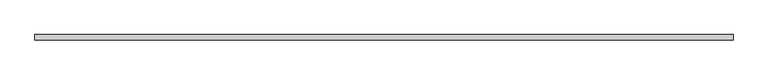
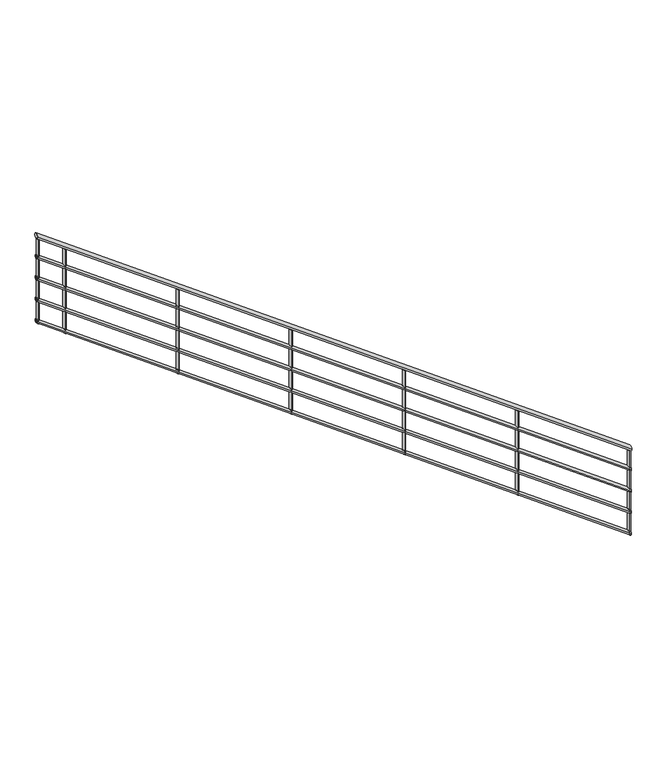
"""IFC4 building model written with IfcOpenShell, lengths in millimetres: railing geometry, 900mm 管."""

from ifc_helpers import new_model, si_unit, frame, origin, place, context, project, spatial, ellipse_curve, source, transform, mapped, element, save
from ifc_brep_helpers import plane_surface, cylinder_surface, advanced_brep


def railing_fe238c61(model_context):
    return source(origin(), model_context, "Body", "AdvancedBrep", [
        advanced_brep(
        [(8202.9445117, -3394.1637817, -2942.9117646), (8202.9445117, -3354.1637817, -2942.9117646), (2952.9445117, -3394.1637817, 875.2700536), (2952.9445117, -3354.1637817, 875.2700536)],
        [
            (0, 1, ellipse_curve(frame((8202.9445117, -3374.1637817, -2942.9117646), z_axis=(1.0, 0.0, 0.0), x_axis=(0.0, 0.0, -0.9999999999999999)), 24.7299464, 20.0)),
            (1, 0, ellipse_curve(frame((8202.9445117, -3374.1637817, -2942.9117646), z_axis=(1.0, 0.0, 0.0), x_axis=(0.0, 0.0, -0.9999999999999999)), 24.7299464, 20.0)),
            (2, 3, ellipse_curve(frame((2952.9445117, -3374.1637817, 875.2700536), z_axis=(-1.0, 0.0, 0.0), x_axis=(0.0, 0.0, -0.9999999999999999)), 24.7299464, 20.0)),
            (3, 2, ellipse_curve(frame((2952.9445117, -3374.1637817, 875.2700536), z_axis=(-1.0, 0.0, 0.0), x_axis=(0.0, 0.0, -0.9999999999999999)), 24.7299464, 20.0)),
            (0, 2),
            (3, 1),
        ],
        [
            plane_surface(frame((8202.9445117, -3374.1637817, -2918.1818182), z_axis=(1.0, 0.0, 0.0), x_axis=(0.0, -1.0, 0.0))),
            plane_surface(frame((2952.9445117, -3374.1637817, 900.0), z_axis=(-1.0, 0.0, 0.0), x_axis=(0.0, -1.0, 0.0))),
            cylinder_surface(frame((8191.1810777, -3374.1637817, -2934.3565399), z_axis=(0.8087360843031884, 0.0, -0.5881716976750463), x_axis=(0.0, 1.0, 0.0)), 20.0),
        ],
        [
            (0, [[1, 2]]),
            (1, [[3, 4]]),
            (2, [[-1, 5, -4, 6]]),
            (2, [[-2, -6, -3, -5]]),
        ],
    ),
        advanced_brep(
        [(8202.9445117, -3389.1637817, -3136.729278), (8202.9445117, -3359.1637817, -3136.729278), (2952.9445117, -3389.1637817, 681.4525402), (2952.9445117, -3359.1637817, 681.4525402)],
        [
            (0, 1, ellipse_curve(frame((8202.9445117, -3374.1637817, -3136.729278), z_axis=(1.0, 0.0, 0.0), x_axis=(0.0, 0.0, -0.9999999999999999)), 18.5474598, 15.0)),
            (1, 0, ellipse_curve(frame((8202.9445117, -3374.1637817, -3136.729278), z_axis=(1.0, 0.0, 0.0), x_axis=(0.0, 0.0, -0.9999999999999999)), 18.5474598, 15.0)),
            (2, 3, ellipse_curve(frame((2952.9445117, -3374.1637817, 681.4525402), z_axis=(-1.0, 0.0, 0.0), x_axis=(0.0, 0.0, -0.9999999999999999)), 18.5474598, 15.0)),
            (3, 2, ellipse_curve(frame((2952.9445117, -3374.1637817, 681.4525402), z_axis=(-1.0, 0.0, 0.0), x_axis=(0.0, 0.0, -0.9999999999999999)), 18.5474598, 15.0)),
            (0, 2),
            (3, 1),
        ],
        [
            plane_surface(frame((8202.9445117, -3374.1637817, -3118.1818182), z_axis=(1.0, 0.0, 0.0), x_axis=(0.0, -1.0, 0.0))),
            plane_surface(frame((2952.9445117, -3374.1637817, 700.0), z_axis=(-1.0, 0.0, 0.0), x_axis=(0.0, -1.0, 0.0))),
            cylinder_surface(frame((8194.1219362, -3374.1637817, -3130.3128594), z_axis=(0.8087360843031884, 0.0, -0.5881716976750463), x_axis=(0.0, 1.0, 0.0)), 15.0),
        ],
        [
            (0, [[1, 2]]),
            (1, [[3, 4]]),
            (2, [[-1, 5, -4, 6]]),
            (2, [[-2, -6, -3, -5]]),
        ],
    ),
        advanced_brep(
        [(8202.9445117, -3389.1637817, -3336.729278), (8202.9445117, -3359.1637817, -3336.729278), (2952.9445117, -3389.1637817, 481.4525402), (2952.9445117, -3359.1637817, 481.4525402)],
        [
            (0, 1, ellipse_curve(frame((8202.9445117, -3374.1637817, -3336.729278), z_axis=(1.0, 0.0, 0.0), x_axis=(0.0, 0.0, -0.9999999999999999)), 18.5474598, 15.0)),
            (1, 0, ellipse_curve(frame((8202.9445117, -3374.1637817, -3336.729278), z_axis=(1.0, 0.0, 0.0), x_axis=(0.0, 0.0, -0.9999999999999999)), 18.5474598, 15.0)),
            (2, 3, ellipse_curve(frame((2952.9445117, -3374.1637817, 481.4525402), z_axis=(-1.0, 0.0, 0.0), x_axis=(0.0, 0.0, -0.9999999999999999)), 18.5474598, 15.0)),
            (3, 2, ellipse_curve(frame((2952.9445117, -3374.1637817, 481.4525402), z_axis=(-1.0, 0.0, 0.0), x_axis=(0.0, 0.0, -0.9999999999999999)), 18.5474598, 15.0)),
            (0, 2),
            (3, 1),
        ],
        [
            plane_surface(frame((8202.9445117, -3374.1637817, -3318.1818182), z_axis=(1.0, 0.0, 0.0), x_axis=(0.0, -1.0, 0.0))),
            plane_surface(frame((2952.9445117, -3374.1637817, 500.0), z_axis=(-1.0, 0.0, 0.0), x_axis=(0.0, -1.0, 0.0))),
            cylinder_surface(frame((8194.1219362, -3374.1637817, -3330.3128594), z_axis=(0.8087360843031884, 0.0, -0.5881716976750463), x_axis=(0.0, 1.0, 0.0)), 15.0),
        ],
        [
            (0, [[1, 2]]),
            (1, [[3, 4]]),
            (2, [[-1, 5, -4, 6]]),
            (2, [[-2, -6, -3, -5]]),
        ],
    ),
        advanced_brep(
        [(8202.9445117, -3389.1637817, -3536.729278), (8202.9445117, -3359.1637817, -3536.729278), (2952.9445117, -3389.1637817, 281.4525402), (2952.9445117, -3359.1637817, 281.4525402)],
        [
            (0, 1, ellipse_curve(frame((8202.9445117, -3374.1637817, -3536.729278), z_axis=(1.0, 0.0, 0.0), x_axis=(0.0, 0.0, -0.9999999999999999)), 18.5474598, 15.0)),
            (1, 0, ellipse_curve(frame((8202.9445117, -3374.1637817, -3536.729278), z_axis=(1.0, 0.0, 0.0), x_axis=(0.0, 0.0, -0.9999999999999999)), 18.5474598, 15.0)),
            (2, 3, ellipse_curve(frame((2952.9445117, -3374.1637817, 281.4525402), z_axis=(-1.0, 0.0, 0.0), x_axis=(0.0, 0.0, -0.9999999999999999)), 18.5474598, 15.0)),
            (3, 2, ellipse_curve(frame((2952.9445117, -3374.1637817, 281.4525402), z_axis=(-1.0, 0.0, 0.0), x_axis=(0.0, 0.0, -0.9999999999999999)), 18.5474598, 15.0)),
            (0, 2),
            (3, 1),
        ],
        [
            plane_surface(frame((8202.9445117, -3374.1637817, -3518.1818182), z_axis=(1.0, 0.0, 0.0), x_axis=(0.0, -1.0, 0.0))),
            plane_surface(frame((2952.9445117, -3374.1637817, 300.0), z_axis=(-1.0, 0.0, 0.0), x_axis=(0.0, -1.0, 0.0))),
            cylinder_surface(frame((8194.1219362, -3374.1637817, -3530.3128594), z_axis=(0.8087360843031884, 0.0, -0.5881716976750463), x_axis=(0.0, 1.0, 0.0)), 15.0),
        ],
        [
            (0, [[1, 2]]),
            (1, [[3, 4]]),
            (2, [[-1, 5, -4, 6]]),
            (2, [[-2, -6, -3, -5]]),
        ],
    ),
        advanced_brep(
        [(8202.9445117, -3389.1637817, -3736.729278), (8202.9445117, -3359.1637817, -3736.729278), (2952.9445117, -3389.1637817, 81.4525402), (2952.9445117, -3359.1637817, 81.4525402)],
        [
            (0, 1, ellipse_curve(frame((8202.9445117, -3374.1637817, -3736.729278), z_axis=(1.0, 0.0, 0.0), x_axis=(0.0, 0.0, -0.9999999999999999)), 18.5474598, 15.0)),
            (1, 0, ellipse_curve(frame((8202.9445117, -3374.1637817, -3736.729278), z_axis=(1.0, 0.0, 0.0), x_axis=(0.0, 0.0, -0.9999999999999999)), 18.5474598, 15.0)),
            (2, 3, ellipse_curve(frame((2952.9445117, -3374.1637817, 81.4525402), z_axis=(-1.0, 0.0, 0.0), x_axis=(0.0, 0.0, -0.9999999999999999)), 18.5474598, 15.0)),
            (3, 2, ellipse_curve(frame((2952.9445117, -3374.1637817, 81.4525402), z_axis=(-1.0, 0.0, 0.0), x_axis=(0.0, 0.0, -0.9999999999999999)), 18.5474598, 15.0)),
            (0, 2),
            (3, 1),
        ],
        [
            plane_surface(frame((8202.9445117, -3374.1637817, -3718.1818182), z_axis=(1.0, 0.0, 0.0), x_axis=(0.0, -1.0, 0.0))),
            plane_surface(frame((2952.9445117, -3374.1637817, 100.0), z_axis=(-1.0, 0.0, 0.0), x_axis=(0.0, -1.0, 0.0))),
            cylinder_surface(frame((8194.1219362, -3374.1637817, -3730.3128594), z_axis=(0.8087360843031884, 0.0, -0.5881716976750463), x_axis=(0.0, 1.0, 0.0)), 15.0),
        ],
        [
            (0, [[1, 2]]),
            (1, [[3, 4]]),
            (2, [[-1, 5, -4, 6]]),
            (2, [[-2, -6, -3, -5]]),
        ],
    ),
        advanced_brep(
        [(3202.9445117, -3361.6637817, 668.7219254), (3202.9445117, -3361.6637817, -116.0759376), (3202.9445117, -3386.6637817, -116.0759376), (3202.9445117, -3386.6637817, 668.7219254)],
        [
            (0, 1),
            (1, 2, ellipse_curve(frame((3202.9445117, -3374.1637817, -116.0759376), z_axis=(0.5881716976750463, 0.0, 0.8087360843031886), x_axis=(-0.8087360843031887, 0.0, 0.5881716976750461)), 15.4562165, 12.5)),
            (2, 3),
            (3, 0, ellipse_curve(frame((3202.9445117, -3374.1637817, 668.7219254), z_axis=(-0.5881716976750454, 0.0, -0.8087360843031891), x_axis=(-0.8087360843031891, 0.0, 0.5881716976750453)), 15.4562165, 12.5)),
            (0, 3, ellipse_curve(frame((3202.9445117, -3374.1637817, 668.7219254), z_axis=(-0.5881716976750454, 0.0, -0.8087360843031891), x_axis=(-0.8087360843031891, 0.0, 0.5881716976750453)), 15.4562165, 12.5)),
            (2, 1, ellipse_curve(frame((3202.9445117, -3374.1637817, -116.0759376), z_axis=(0.5881716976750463, 0.0, 0.8087360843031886), x_axis=(-0.8087360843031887, 0.0, 0.5881716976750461)), 15.4562165, 12.5)),
        ],
        [
            cylinder_surface(frame((3202.9445117, -3374.1637817, -216.0759376), z_axis=(0.0, 0.0, 1.0), x_axis=(0.0, -1.0, 0.0)), 12.5),
            plane_surface(frame((3177.9445117, -3399.1637817, 686.9037436), z_axis=(0.5881716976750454, 0.0, 0.8087360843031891), x_axis=(0.0, 1.0, 0.0))),
            plane_surface(frame((3227.9445117, -3399.1637817, -134.2577558), z_axis=(-0.5881716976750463, 0.0, -0.8087360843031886), x_axis=(0.0, 1.0, 0.0))),
        ],
        [
            (0, [[1, 2, 3, 4]]),
            (0, [[-1, 5, -3, 6]]),
            (1, [[-4, -5]]),
            (2, [[-2, -6]]),
        ],
    ),
        advanced_brep(
        [(4202.9445117, -3361.6637817, -58.5508018), (4202.9445117, -3361.6637817, -843.3486649), (4202.9445117, -3386.6637817, -843.3486649), (4202.9445117, -3386.6637817, -58.5508018)],
        [
            (0, 1),
            (1, 2, ellipse_curve(frame((4202.9445117, -3374.1637817, -843.3486649), z_axis=(0.5881716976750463, 0.0, 0.8087360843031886), x_axis=(-0.8087360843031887, 0.0, 0.5881716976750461)), 15.4562165, 12.5)),
            (2, 3),
            (3, 0, ellipse_curve(frame((4202.9445117, -3374.1637817, -58.5508018), z_axis=(-0.5881716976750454, 0.0, -0.8087360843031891), x_axis=(-0.8087360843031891, 0.0, 0.5881716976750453)), 15.4562165, 12.5)),
            (0, 3, ellipse_curve(frame((4202.9445117, -3374.1637817, -58.5508018), z_axis=(-0.5881716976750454, 0.0, -0.8087360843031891), x_axis=(-0.8087360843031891, 0.0, 0.5881716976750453)), 15.4562165, 12.5)),
            (2, 1, ellipse_curve(frame((4202.9445117, -3374.1637817, -843.3486649), z_axis=(0.5881716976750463, 0.0, 0.8087360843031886), x_axis=(-0.8087360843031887, 0.0, 0.5881716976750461)), 15.4562165, 12.5)),
        ],
        [
            cylinder_surface(frame((4202.9445117, -3374.1637817, -943.3486649), z_axis=(0.0, 0.0, 1.0), x_axis=(0.0, -1.0, 0.0)), 12.5),
            plane_surface(frame((4177.9445117, -3399.1637817, -40.3689837), z_axis=(0.5881716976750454, 0.0, 0.8087360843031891), x_axis=(0.0, 1.0, 0.0))),
            plane_surface(frame((4227.9445117, -3399.1637817, -861.5304831), z_axis=(-0.5881716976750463, 0.0, -0.8087360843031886), x_axis=(0.0, 1.0, 0.0))),
        ],
        [
            (0, [[1, 2, 3, 4]]),
            (0, [[-1, 5, -3, 6]]),
            (1, [[-4, -5]]),
            (2, [[-2, -6]]),
        ],
    ),
        advanced_brep(
        [(5202.9445117, -3361.6637817, -785.8235291), (5202.9445117, -3361.6637817, -1570.6213922), (5202.9445117, -3386.6637817, -1570.6213922), (5202.9445117, -3386.6637817, -785.8235291)],
        [
            (0, 1),
            (1, 2, ellipse_curve(frame((5202.9445117, -3374.1637817, -1570.6213922), z_axis=(0.5881716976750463, 0.0, 0.8087360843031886), x_axis=(-0.8087360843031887, 0.0, 0.5881716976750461)), 15.4562165, 12.5)),
            (2, 3),
            (3, 0, ellipse_curve(frame((5202.9445117, -3374.1637817, -785.8235291), z_axis=(-0.5881716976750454, 0.0, -0.8087360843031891), x_axis=(-0.8087360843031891, 0.0, 0.5881716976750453)), 15.4562165, 12.5)),
            (0, 3, ellipse_curve(frame((5202.9445117, -3374.1637817, -785.8235291), z_axis=(-0.5881716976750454, 0.0, -0.8087360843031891), x_axis=(-0.8087360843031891, 0.0, 0.5881716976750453)), 15.4562165, 12.5)),
            (2, 1, ellipse_curve(frame((5202.9445117, -3374.1637817, -1570.6213922), z_axis=(0.5881716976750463, 0.0, 0.8087360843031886), x_axis=(-0.8087360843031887, 0.0, 0.5881716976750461)), 15.4562165, 12.5)),
        ],
        [
            cylinder_surface(frame((5202.9445117, -3374.1637817, -1670.6213922), z_axis=(0.0, 0.0, 1.0), x_axis=(0.0, -1.0, 0.0)), 12.5),
            plane_surface(frame((5177.9445117, -3399.1637817, -767.6417109), z_axis=(0.5881716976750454, 0.0, 0.8087360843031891), x_axis=(0.0, 1.0, 0.0))),
            plane_surface(frame((5227.9445117, -3399.1637817, -1588.8032103), z_axis=(-0.5881716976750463, 0.0, -0.8087360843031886), x_axis=(0.0, 1.0, 0.0))),
        ],
        [
            (0, [[1, 2, 3, 4]]),
            (0, [[-1, 5, -3, 6]]),
            (1, [[-4, -5]]),
            (2, [[-2, -6]]),
        ],
    ),
        advanced_brep(
        [(6202.9445117, -3361.6637817, -1513.0962564), (6202.9445117, -3361.6637817, -2297.8941194), (6202.9445117, -3386.6637817, -2297.8941194), (6202.9445117, -3386.6637817, -1513.0962564)],
        [
            (0, 1),
            (1, 2, ellipse_curve(frame((6202.9445117, -3374.1637817, -2297.8941194), z_axis=(0.5881716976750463, 0.0, 0.8087360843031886), x_axis=(-0.8087360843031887, 0.0, 0.5881716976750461)), 15.4562165, 12.5)),
            (2, 3),
            (3, 0, ellipse_curve(frame((6202.9445117, -3374.1637817, -1513.0962564), z_axis=(-0.5881716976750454, 0.0, -0.8087360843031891), x_axis=(-0.8087360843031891, 0.0, 0.5881716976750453)), 15.4562165, 12.5)),
            (0, 3, ellipse_curve(frame((6202.9445117, -3374.1637817, -1513.0962564), z_axis=(-0.5881716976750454, 0.0, -0.8087360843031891), x_axis=(-0.8087360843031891, 0.0, 0.5881716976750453)), 15.4562165, 12.5)),
            (2, 1, ellipse_curve(frame((6202.9445117, -3374.1637817, -2297.8941194), z_axis=(0.5881716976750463, 0.0, 0.8087360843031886), x_axis=(-0.8087360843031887, 0.0, 0.5881716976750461)), 15.4562165, 12.5)),
        ],
        [
            cylinder_surface(frame((6202.9445117, -3374.1637817, -2397.8941194), z_axis=(0.0, 0.0, 1.0), x_axis=(0.0, -1.0, 0.0)), 12.5),
            plane_surface(frame((6177.9445117, -3399.1637817, -1494.9144382), z_axis=(0.5881716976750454, 0.0, 0.8087360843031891), x_axis=(0.0, 1.0, 0.0))),
            plane_surface(frame((6227.9445117, -3399.1637817, -2316.0759376), z_axis=(-0.5881716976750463, 0.0, -0.8087360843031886), x_axis=(0.0, 1.0, 0.0))),
        ],
        [
            (0, [[1, 2, 3, 4]]),
            (0, [[-1, 5, -3, 6]]),
            (1, [[-4, -5]]),
            (2, [[-2, -6]]),
        ],
    ),
        advanced_brep(
        [(7202.9445117, -3361.6637817, -2240.3689837), (7202.9445117, -3361.6637817, -3025.1668467), (7202.9445117, -3386.6637817, -3025.1668467), (7202.9445117, -3386.6637817, -2240.3689837)],
        [
            (0, 1),
            (1, 2, ellipse_curve(frame((7202.9445117, -3374.1637817, -3025.1668467), z_axis=(0.5881716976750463, 0.0, 0.8087360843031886), x_axis=(-0.8087360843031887, 0.0, 0.5881716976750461)), 15.4562165, 12.5)),
            (2, 3),
            (3, 0, ellipse_curve(frame((7202.9445117, -3374.1637817, -2240.3689837), z_axis=(-0.5881716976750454, 0.0, -0.8087360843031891), x_axis=(-0.8087360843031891, 0.0, 0.5881716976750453)), 15.4562165, 12.5)),
            (0, 3, ellipse_curve(frame((7202.9445117, -3374.1637817, -2240.3689837), z_axis=(-0.5881716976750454, 0.0, -0.8087360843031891), x_axis=(-0.8087360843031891, 0.0, 0.5881716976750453)), 15.4562165, 12.5)),
            (2, 1, ellipse_curve(frame((7202.9445117, -3374.1637817, -3025.1668467), z_axis=(0.5881716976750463, 0.0, 0.8087360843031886), x_axis=(-0.8087360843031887, 0.0, 0.5881716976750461)), 15.4562165, 12.5)),
        ],
        [
            cylinder_surface(frame((7202.9445117, -3374.1637817, -3125.1668467), z_axis=(0.0, 0.0, 1.0), x_axis=(0.0, -1.0, 0.0)), 12.5),
            plane_surface(frame((7177.9445117, -3399.1637817, -2222.1871655), z_axis=(0.5881716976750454, 0.0, 0.8087360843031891), x_axis=(0.0, 1.0, 0.0))),
            plane_surface(frame((7227.9445117, -3399.1637817, -3043.3486649), z_axis=(-0.5881716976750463, 0.0, -0.8087360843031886), x_axis=(0.0, 1.0, 0.0))),
        ],
        [
            (0, [[1, 2, 3, 4]]),
            (0, [[-1, 5, -3, 6]]),
            (1, [[-4, -5]]),
            (2, [[-2, -6]]),
        ],
    ),
        advanced_brep(
        [(2965.4445117, -3361.6637817, 841.4491982), (2965.4445117, -3361.6637817, 56.6513351), (2965.4445117, -3386.6637817, 56.6513351), (2965.4445117, -3386.6637817, 841.4491982)],
        [
            (0, 1),
            (1, 2, ellipse_curve(frame((2965.4445117, -3374.1637817, 56.6513351), z_axis=(0.5881716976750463, 0.0, 0.8087360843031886), x_axis=(-0.8087360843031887, 0.0, 0.5881716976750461)), 15.4562165, 12.5)),
            (2, 3),
            (3, 0, ellipse_curve(frame((2965.4445117, -3374.1637817, 841.4491982), z_axis=(-0.5881716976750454, 0.0, -0.8087360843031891), x_axis=(-0.8087360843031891, 0.0, 0.5881716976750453)), 15.4562165, 12.5)),
            (0, 3, ellipse_curve(frame((2965.4445117, -3374.1637817, 841.4491982), z_axis=(-0.5881716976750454, 0.0, -0.8087360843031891), x_axis=(-0.8087360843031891, 0.0, 0.5881716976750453)), 15.4562165, 12.5)),
            (2, 1, ellipse_curve(frame((2965.4445117, -3374.1637817, 56.6513351), z_axis=(0.5881716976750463, 0.0, 0.8087360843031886), x_axis=(-0.8087360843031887, 0.0, 0.5881716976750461)), 15.4562165, 12.5)),
        ],
        [
            cylinder_surface(frame((2965.4445117, -3374.1637817, -43.3486649), z_axis=(0.0, 0.0, 1.0), x_axis=(0.0, -1.0, 0.0)), 12.5),
            plane_surface(frame((2940.4445117, -3399.1637817, 859.6310163), z_axis=(0.5881716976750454, 0.0, 0.8087360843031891), x_axis=(0.0, 1.0, 0.0))),
            plane_surface(frame((2990.4445117, -3399.1637817, 38.4695169), z_axis=(-0.5881716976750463, 0.0, -0.8087360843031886), x_axis=(0.0, 1.0, 0.0))),
        ],
        [
            (0, [[1, 2, 3, 4]]),
            (0, [[-1, 5, -3, 6]]),
            (1, [[-4, -5]]),
            (2, [[-2, -6]]),
        ],
    ),
        advanced_brep(
        [(8190.4445117, -3361.6637817, -2958.5508018), (8190.4445117, -3361.6637817, -3743.3486649), (8190.4445117, -3386.6637817, -3743.3486649), (8190.4445117, -3386.6637817, -2958.5508018)],
        [
            (0, 1),
            (1, 2, ellipse_curve(frame((8190.4445117, -3374.1637817, -3743.3486649), z_axis=(0.5881716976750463, 0.0, 0.8087360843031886), x_axis=(-0.8087360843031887, 0.0, 0.5881716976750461)), 15.4562165, 12.5)),
            (2, 3),
            (3, 0, ellipse_curve(frame((8190.4445117, -3374.1637817, -2958.5508018), z_axis=(-0.5881716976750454, 0.0, -0.8087360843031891), x_axis=(-0.8087360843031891, 0.0, 0.5881716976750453)), 15.4562165, 12.5)),
            (0, 3, ellipse_curve(frame((8190.4445117, -3374.1637817, -2958.5508018), z_axis=(-0.5881716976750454, 0.0, -0.8087360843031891), x_axis=(-0.8087360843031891, 0.0, 0.5881716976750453)), 15.4562165, 12.5)),
            (2, 1, ellipse_curve(frame((8190.4445117, -3374.1637817, -3743.3486649), z_axis=(0.5881716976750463, 0.0, 0.8087360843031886), x_axis=(-0.8087360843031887, 0.0, 0.5881716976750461)), 15.4562165, 12.5)),
        ],
        [
            cylinder_surface(frame((8190.4445117, -3374.1637817, -3843.3486649), z_axis=(0.0, 0.0, 1.0), x_axis=(0.0, -1.0, 0.0)), 12.5),
            plane_surface(frame((8165.4445117, -3399.1637817, -2940.3689837), z_axis=(0.5881716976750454, 0.0, 0.8087360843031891), x_axis=(0.0, 1.0, 0.0))),
            plane_surface(frame((8215.4445117, -3399.1637817, -3761.5304831), z_axis=(-0.5881716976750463, 0.0, -0.8087360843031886), x_axis=(0.0, 1.0, 0.0))),
        ],
        [
            (0, [[1, 2, 3, 4]]),
            (0, [[-1, 5, -3, 6]]),
            (1, [[-4, -5]]),
            (2, [[-2, -6]]),
        ],
    ),
    ])


if __name__ == "__main__":
    model = new_model("IFC4")
    model_context = context("Model", 3, world=origin())
    ifc_project = project(units=[si_unit("LENGTHUNIT", "METRE", prefix="MILLI")], contexts=[model_context])
    site = spatial("IfcSite", under=ifc_project)
    building = spatial("IfcBuilding", under=site)
    placement = place(None, origin())
    railing_shape = railing_fe238c61(model_context)
    element("IfcRailing", 1, ObjectType="900mm 管", at=placement, inside=building, context=model_context, shape_type="MappedRepresentation", body=[
        mapped(railing_shape, transform((0.0, 0.0, 0.0), x_axis=(1.0, 0.0, 0.0), y_axis=(0.0, 1.0, 0.0), z_axis=(0.0, 0.0, 1.0))),
    ])
    save(model, "model.ifc")
